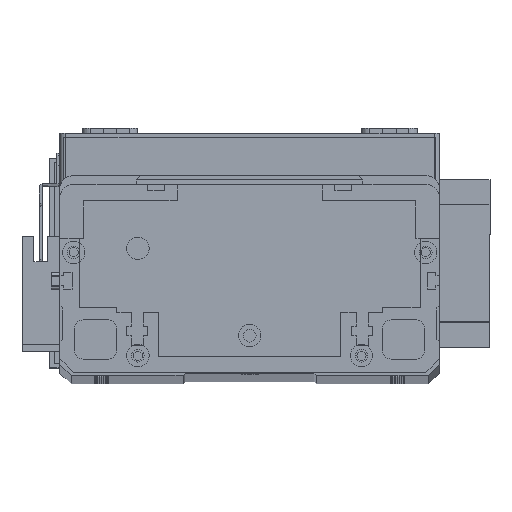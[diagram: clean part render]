
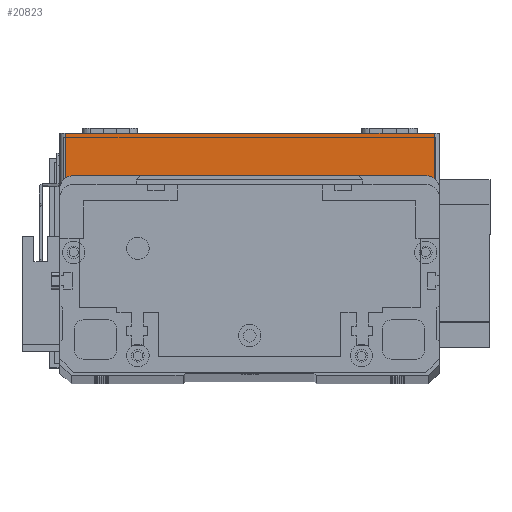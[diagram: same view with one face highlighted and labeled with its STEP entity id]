
A CAD part, top view. The second image highlights one B-rep face of the part: STEP entity #20823.
In plain terms, the highlighted planar face has unit normal (0, 0, 1) as drawn and (0, -1, 0) by its records, which use the part's own axes.
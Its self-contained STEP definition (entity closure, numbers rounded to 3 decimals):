
#11 = CARTESIAN_POINT ( 'NONE',  ( 134., 0., 19.5 ) ) ;
#180 = CARTESIAN_POINT ( 'NONE',  ( 134., 0., 0. ) ) ;
#297 = DIRECTION ( 'NONE',  ( 0., 0., 1. ) ) ;
#809 = EDGE_CURVE ( 'NONE', #5497, #23253, #21349, .T. ) ;
#879 = ORIENTED_EDGE ( 'NONE', *, *, #809, .T. ) ;
#3222 = CARTESIAN_POINT ( 'NONE',  ( 0., 0., 0. ) ) ;
#5497 = VERTEX_POINT ( 'NONE', #15273 ) ;
#6437 = ORIENTED_EDGE ( 'NONE', *, *, #18738, .T. ) ;
#7267 = CARTESIAN_POINT ( 'NONE',  ( 0., 0., 19.5 ) ) ;
#7443 = DIRECTION ( 'NONE',  ( 1., 0., 0. ) ) ;
#7697 = VECTOR ( 'NONE', #7443, 1000. ) ;
#8076 = AXIS2_PLACEMENT_3D ( 'NONE', #25531, #14104, #297 ) ;
#9064 = FACE_OUTER_BOUND ( 'NONE', #16507, .T. ) ;
#10676 = ORIENTED_EDGE ( 'NONE', *, *, #16026, .F. ) ;
#11539 = VERTEX_POINT ( 'NONE', #11 ) ;
#11931 = VECTOR ( 'NONE', #20894, 1000. ) ;
#12823 = EDGE_CURVE ( 'NONE', #23253, #11539, #18058, .T. ) ;
#13494 = VECTOR ( 'NONE', #16824, 1000. ) ;
#14104 = DIRECTION ( 'NONE',  ( 0., 1., 0. ) ) ;
#14222 = LINE ( 'NONE', #14518, #13494 ) ;
#14518 = CARTESIAN_POINT ( 'NONE',  ( 2., 0., 19.5 ) ) ;
#15273 = CARTESIAN_POINT ( 'NONE',  ( 2., 0., 0. ) ) ;
#16026 = EDGE_CURVE ( 'NONE', #24986, #11539, #29766, .T. ) ;
#16507 = EDGE_LOOP ( 'NONE', ( #10676, #6437, #879, #28036 ) ) ;
#16824 = DIRECTION ( 'NONE',  ( 0., 0., -1. ) ) ;
#18058 = LINE ( 'NONE', #27736, #11931 ) ;
#18612 = PLANE ( 'NONE',  #8076 ) ;
#18712 = DIRECTION ( 'NONE',  ( 1., 0., 0. ) ) ;
#18738 = EDGE_CURVE ( 'NONE', #24986, #5497, #14222, .T. ) ;
#19950 = CARTESIAN_POINT ( 'NONE',  ( 2., 0., 19.5 ) ) ;
#20823 = ADVANCED_FACE ( 'NONE', ( #9064 ), #18612, .F. ) ;
#20894 = DIRECTION ( 'NONE',  ( 0., 0., 1. ) ) ;
#21349 = LINE ( 'NONE', #3222, #7697 ) ;
#23253 = VERTEX_POINT ( 'NONE', #180 ) ;
#24986 = VERTEX_POINT ( 'NONE', #19950 ) ;
#25531 = CARTESIAN_POINT ( 'NONE',  ( 0., 0., 19.5 ) ) ;
#27736 = CARTESIAN_POINT ( 'NONE',  ( 134., 0., 19.5 ) ) ;
#28036 = ORIENTED_EDGE ( 'NONE', *, *, #12823, .T. ) ;
#29048 = VECTOR ( 'NONE', #18712, 1000. ) ;
#29766 = LINE ( 'NONE', #7267, #29048 ) ;
